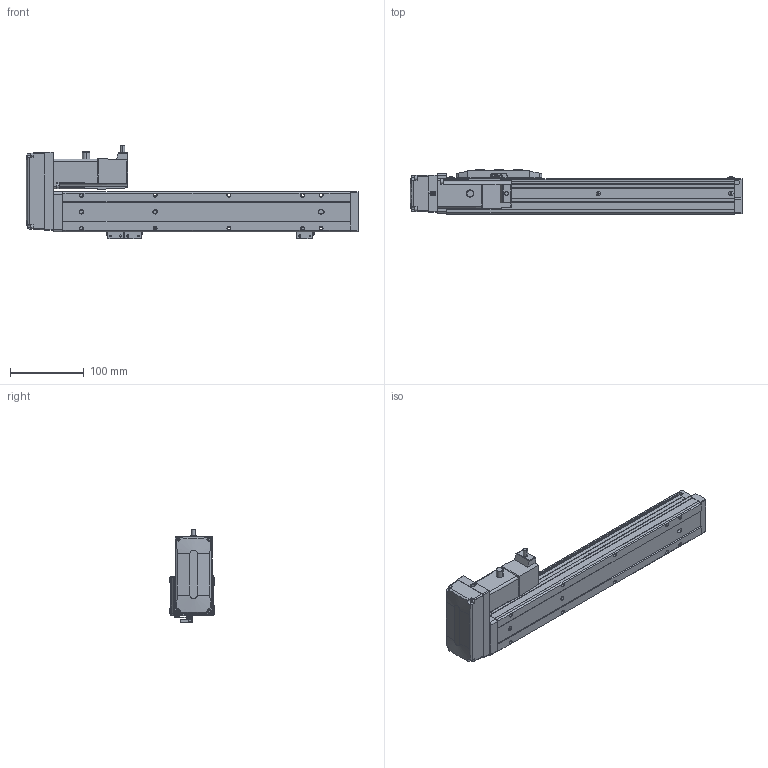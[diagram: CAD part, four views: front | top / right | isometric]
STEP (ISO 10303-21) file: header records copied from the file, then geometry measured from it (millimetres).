
FILE_DESCRIPTION (( 'STEP AP203' ), '1' );
FILE_NAME ('CTH5-L10-S250-BL-C10(¼ò).STEP', '2023-02-04T02:16:38', ( '' ), ( '' ), 'SwSTEP 2.0', 'SolidWorks 2018', '' );
FILE_SCHEMA (( 'CONFIG_CONTROL_DESIGN' ));
Length unit declared in the file: millimetre
Products named in the file (21): CTH5ヶ耜啣(潠); 内六角圆柱头螺钉M3-2; M3｡｣; CTH5耜蚾欶; CTH5耜蚾蟀諉啣(潠); PM-Y45; CTH5耜晚蹟隊-1; 100W萇儂; 嫖萇羲壽郪磁1; CTH嫖萇羲壽假蚾啣; CTH5菁釱-L390; CTH5賑怢-2; CTH5耜晚蹟隊; CTH5-L10-S250-BL-C10(潠); CTH5覜茼え; hex nuts, style 1-grades ab gb_GB_FASTENER_NUT_SNAB1 M3-N; CTH5-BL-T10_body5; CTH100W假蚾啣; T10-p1; CTH5綴耜啣; 葩璃 蚾饜极13^CTH8-L10-S50-BM-C40(潠)1
Assembly tree (35 placements, depth 3):
  CTH5-L10-S250-BL-C10(潠)
    CTH5綴耜啣
    CTH5賑怢-2
    CTH5ヶ耜啣(潠)
    CTH5菁釱-L390
    CTH5耜晚蹟隊  x2
    CTH5覜茼え
    CTH5耜晚蹟隊-1  x3
    CTH5耜蚾蟀諉啣(潠)
    CTH5耜蚾欶
      CTH5-BL-T10_body5
    100W萇儂
      T10-p1
    CTH100W假蚾啣
    葩璃 蚾饜极13^CTH8-L10-S50-BM-C40(潠)1  x2
      CTH嫖萇羲壽假蚾啣
      PM-Y45
      内六角圆柱头螺钉M3-2
      M3｡｣
      hex nuts, style 1-grades ab gb_GB_FASTENER_NUT_SNAB1 M3-N
    嫖萇羲壽郪磁1
      CTH嫖萇羲壽假蚾啣
      PM-Y45
      M3｡｣  x2
      内六角圆柱头螺钉M3-2  x2
      hex nuts, style 1-grades ab gb_GB_FASTENER_NUT_SNAB1 M3-N  x2
Bounding box: 450 x 60 x 126.31 mm (x, y, z)
Volume: 1248231.7 mm3; surface area: 198388.3 mm2
Topology: 38 solids, 38 shells, 1572 faces, 3941 edges, 2548 vertices
Faces by surface type: plane 881, cylinder 460, cone 175, torus 38, bspline 18
Entity records: 36522 total; most frequent: CARTESIAN_POINT 6785, DIRECTION 5763, ORIENTED_EDGE 5554, EDGE_CURVE 2777, AXIS2_PLACEMENT_3D 1973, VECTOR 1817, LINE 1817, VERTEX_POINT 1792
